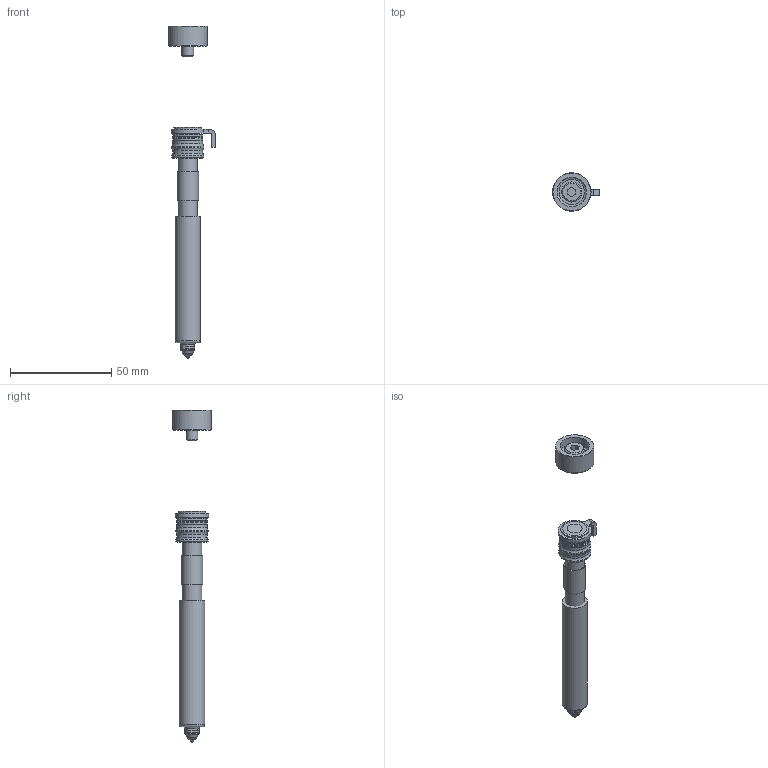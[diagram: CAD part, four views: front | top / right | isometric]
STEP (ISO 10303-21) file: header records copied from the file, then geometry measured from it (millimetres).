
FILE_DESCRIPTION(/* description */ (''),/* implementation_level */ '2;1');
FILE_NAME(/* name */ 'U250 HT-T.stp',/* time_stamp */ '2021-12-23T14:42:02+08:00',/* author */ (''),/* organization */ (''),/* preprocessor_version */ 'ST-DEVELOPER v16',/* originating_system */ 'SIEMENS PLM Software NX 11.0',/* authorisation */ '');
FILE_SCHEMA (('AUTOMOTIVE_DESIGN { 1 0 10303 214 3 1 1 1 }'));
Length unit declared in the file: millimetre
Products named in the file (10): 3D_EXPORT_3D_ASSY_11310112_2_id52_x_t; 3D_EXPORT_3D_ASSY_11310112_2_id47_x_t; 3D_EXPORT_3D_ASSY_11310112_2_id42_x_t; 3D_EXPORT_3D_ASSY_11310112_2_id37_x_t; 3D_EXPORT_3D_ASSY_11310112_2_id32_x_t; 3D_EXPORT_3D_ASSY_11310112_2_id27_x_t; 3D_EXPORT_3D_ASSY_11310112_2_id22_x_t; 3D_EXPORT_3D_ASSY_11310112_2_id11_x_t; 3D_EXPORT_3D_ASSY_11310112_2_id6_x_t; 3D_EXPORT_3D_ASSY_11310112_2_x_t
Assembly tree (12 placements, depth 2):
  3D_EXPORT_3D_ASSY_11310112_2_x_t
    3D_EXPORT_3D_ASSY_11310112_2_id6_x_t
    3D_EXPORT_3D_ASSY_11310112_2_id11_x_t  x4
    3D_EXPORT_3D_ASSY_11310112_2_id22_x_t
    3D_EXPORT_3D_ASSY_11310112_2_id27_x_t
    3D_EXPORT_3D_ASSY_11310112_2_id32_x_t
    3D_EXPORT_3D_ASSY_11310112_2_id37_x_t
    3D_EXPORT_3D_ASSY_11310112_2_id42_x_t
    3D_EXPORT_3D_ASSY_11310112_2_id47_x_t
    3D_EXPORT_3D_ASSY_11310112_2_id52_x_t
Bounding box: 23.18 x 19 x 163.81 mm (x, y, z)
Volume: 24223.5 mm3; surface area: 13523.6 mm2
Topology: 12 solids, 12 shells, 162 faces, 331 edges, 205 vertices
Faces by surface type: plane 59, cylinder 44, cone 38, torus 16, bspline 4, sphere 1
Full cylindrical faces by diameter (mm): 0.7 x1, 4.6 x1, 4.81 x1, 4.967 x1, 5.5 x1, 5.795 x1, 6 x1, 6.45 x1, 6.465 x1, 6.5 x1, 6.995 x1, 7 x1, 7.1 x1, 9.56 x2, 10 x1, 10.61 x1, 12.5 x1, 13.8 x1, 14.5 x1, 15 x6, 15.99 x2, 19 x1
Entity records: 5137 total; most frequent: CARTESIAN_POINT 923, DIRECTION 644, ORIENTED_EDGE 482, AXIS2_PLACEMENT_3D 290, EDGE_CURVE 241, EDGE_LOOP 224, VERTEX_POINT 183, PRESENTATION_STYLE_ASSIGNMENT 159
